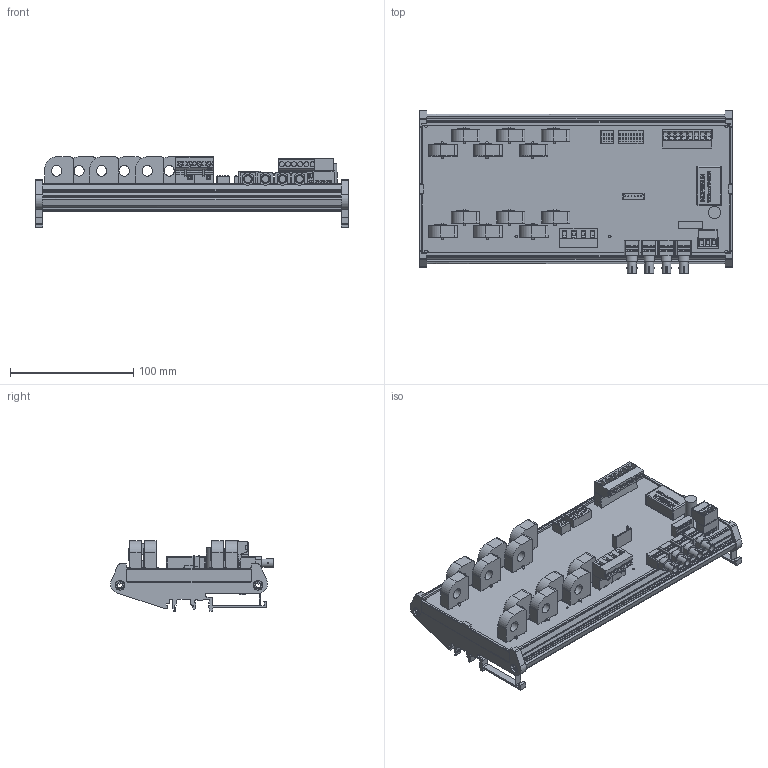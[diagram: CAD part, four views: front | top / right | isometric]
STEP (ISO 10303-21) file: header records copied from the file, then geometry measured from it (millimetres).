
FILE_DESCRIPTION(('FreeCAD Model'),'2;1');
FILE_NAME('C:/3D Files/Stringhe/ST0HS/ST0HS12xx DR/ST0HS12xx DR.step', '2023-01-13T09:14:57',('Author'),(''), 'Open CASCADE STEP processor 7.3','FreeCAD','Unknown');
FILE_SCHEMA(('AUTOMOTIVE_DESIGN { 1 0 10303 214 1 1 1 1 }'));
Length unit declared in the file: millimetre
Products named in the file (32): ST0HS12xx_DR; AmpModu_6P_M; DipSwitch8; DipSwitch4; IB2405LS-1W; WRB2403ZP-6WR003; ELNA_470_uF_35_V; Mstb_03P_F; Mstb_03Pc_M; SH04-7,62; PV02-7,62-V-Pa; PV02-7,62-V-Pb; Mstb_8P_F; Mstb_8Pc_M; CHK-LSP5S2L-BP-CH_05; CHK-LSP5S2L-BP-CH_06; CHK-LSP5S2L-BP-CH_07; CHK-LSP5S2L-BP-CH_08; CHK-LSP5S2L-BP-CH_09; CHK-LSP5S2L-BP-CH_10; CHK-LSP5S2L-BP-CH_11; CHK-LSP5S2L-BP-CH_12; Profilo_254x128; Stampato; CHK-LSP5S2L-BP-CH_01; CHK-LSP5S2L-BP-CH_02; CHK-LSP5S2L-BP-CH_03; CHK-LSP5S2L-BP-CH_04; HFBR-x41xTZ001; HFBR-x41xTZ002; HFBR-x41xTZ003; HFBR-x41xTZ004
Assembly tree (31 placements, depth 2):
  ST0HS12xx_DR
    AmpModu_6P_M
    DipSwitch8
    DipSwitch4
    IB2405LS-1W
    WRB2403ZP-6WR003
    ELNA_470_uF_35_V
    Mstb_03P_F
    Mstb_03Pc_M
    SH04-7,62
    PV02-7,62-V-Pa
    PV02-7,62-V-Pb
    Mstb_8P_F
    Mstb_8Pc_M
    CHK-LSP5S2L-BP-CH_05
    CHK-LSP5S2L-BP-CH_06
    CHK-LSP5S2L-BP-CH_07
    CHK-LSP5S2L-BP-CH_08
    CHK-LSP5S2L-BP-CH_09
    CHK-LSP5S2L-BP-CH_10
    CHK-LSP5S2L-BP-CH_11
    CHK-LSP5S2L-BP-CH_12
    Profilo_254x128
    Stampato
    CHK-LSP5S2L-BP-CH_01
    CHK-LSP5S2L-BP-CH_02
    CHK-LSP5S2L-BP-CH_03
    CHK-LSP5S2L-BP-CH_04
    HFBR-x41xTZ001
    HFBR-x41xTZ002
    HFBR-x41xTZ003
    HFBR-x41xTZ004
Bounding box: 254 x 132.5 x 57.69 mm (x, y, z)
Volume: 229881.5 mm3; surface area: 242622.6 mm2
Topology: 91 solids, 210 shells, 4897 faces, 16949 edges, 20407 vertices
Faces by surface type: plane 3639, cylinder 845, bspline 229, torus 124, cone 41, sphere 16, extrusion 3
Full cylindrical faces by diameter (mm): 0.5 x36, 0.75 x36, 1 x18, 1.5 x8, 1.6 x7, 3.8 x4, 4 x15, 4.3 x2, 5.6 x4, 7.1 x4, 7.9 x4, 9.202 x2, 10 x1
Entity records: 397412 total; most frequent: CARTESIAN_POINT 99022, DIRECTION 49723, VECTOR 34337, LINE 34334, ORIENTED_EDGE 26707, PCURVE 26707, DEFINITIONAL_REPRESENTATION 26707, EDGE_CURVE 14240
